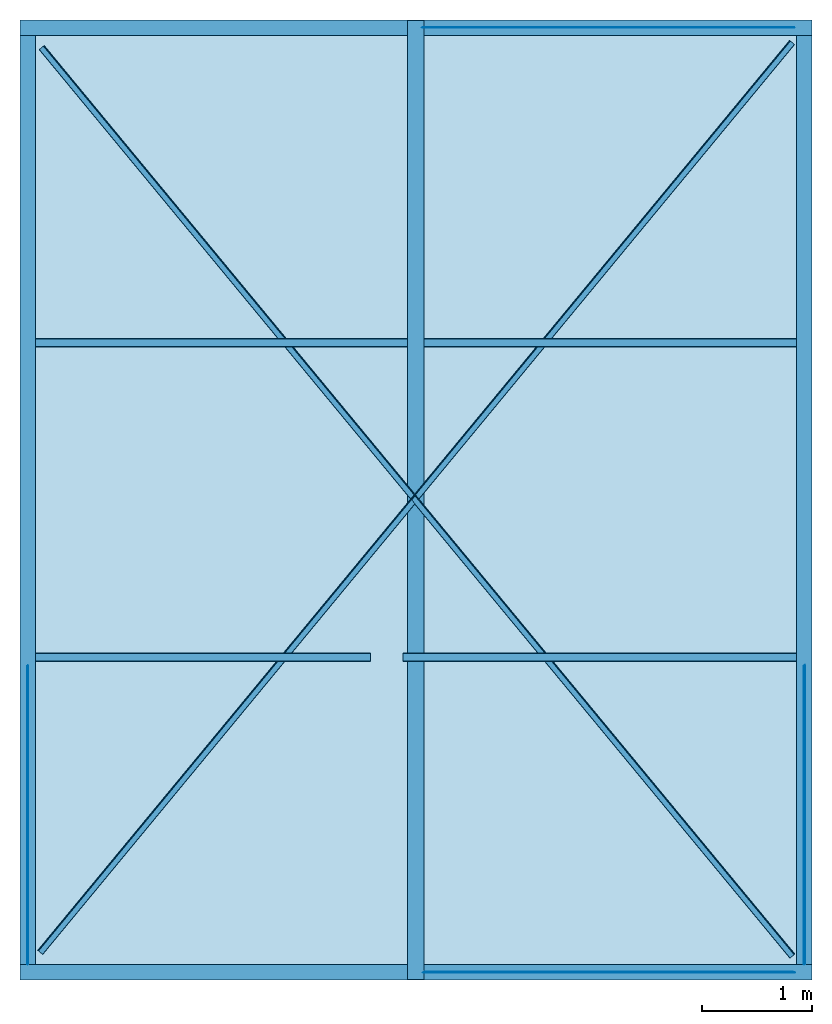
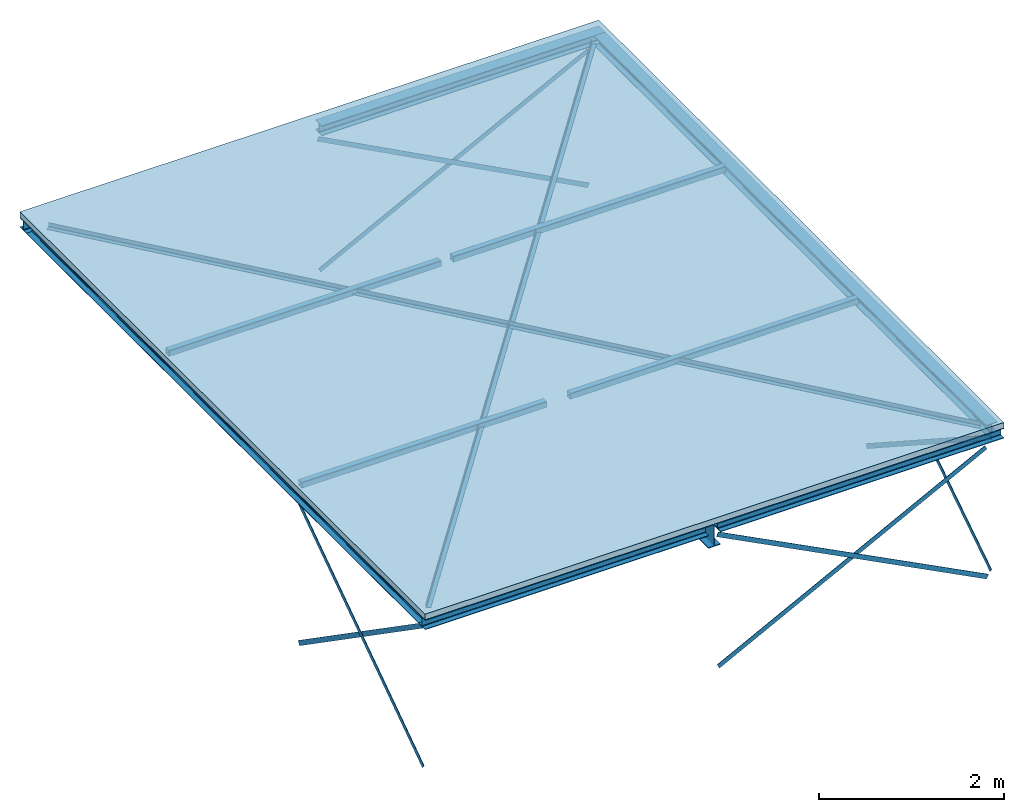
# One storey: 21 beams, 1 slab.
"""IFC2X3 building model written with IfcOpenShell, lengths in millimetres."""

from ifc_helpers import new_model, entity, si_unit, converted_unit, derived_unit, direction, frame, frame_2d, origin, origin_2d_with_axis, place, context, subcontext, project, spatial, polyline, circle_curve, parameter, trimmed, segment, composite_curve, rectangle, i_section, outline, extrude, material, layer, layer_set, layer_usage, type_object, element, save


model = new_model("IFC2X3")

# Units and contexts
model_context = context("Model", 3, precision=0.01, world=origin(), true_north=direction((6.12303176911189e-17, 1.0)))
body_context = subcontext(model_context, "Body", "Model", "MODEL_VIEW")
ifc_project = project(units=[si_unit("LENGTHUNIT", "METRE", prefix="MILLI"), si_unit("AREAUNIT", "SQUARE_METRE"), si_unit("VOLUMEUNIT", "CUBIC_METRE"), converted_unit("PLANEANGLEUNIT", "DEGREE", entity("IfcRatioMeasure", 0.0174532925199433), si_unit("PLANEANGLEUNIT", "RADIAN"), dimensions=[0, 0, 0, 0, 0, 0, 0]), si_unit("MASSUNIT", "GRAM", prefix="KILO"), derived_unit("MASSDENSITYUNIT", [(si_unit("MASSUNIT", "GRAM", prefix="KILO"), 1), (si_unit("LENGTHUNIT", "METRE"), -3)]), derived_unit("MOMENTOFINERTIAUNIT", [(si_unit("LENGTHUNIT", "METRE"), 4)]), si_unit("TIMEUNIT", "SECOND"), si_unit("FREQUENCYUNIT", "HERTZ"), si_unit("THERMODYNAMICTEMPERATUREUNIT", "DEGREE_CELSIUS"), derived_unit("THERMALTRANSMITTANCEUNIT", [(si_unit("MASSUNIT", "GRAM", prefix="KILO"), 1), (si_unit("THERMODYNAMICTEMPERATUREUNIT", "KELVIN"), -1), (si_unit("TIMEUNIT", "SECOND"), -3)]), derived_unit("VOLUMETRICFLOWRATEUNIT", [(si_unit("LENGTHUNIT", "METRE"), 3), (si_unit("TIMEUNIT", "SECOND"), -1)]), si_unit("ELECTRICCURRENTUNIT", "AMPERE"), si_unit("ELECTRICVOLTAGEUNIT", "VOLT"), si_unit("POWERUNIT", "WATT"), si_unit("FORCEUNIT", "NEWTON", prefix="KILO"), si_unit("ILLUMINANCEUNIT", "LUX"), si_unit("LUMINOUSFLUXUNIT", "LUMEN"), si_unit("LUMINOUSINTENSITYUNIT", "CANDELA"), derived_unit("USERDEFINED", [(si_unit("MASSUNIT", "GRAM", prefix="KILO"), -1), (si_unit("LENGTHUNIT", "METRE"), -2), (si_unit("TIMEUNIT", "SECOND"), 3), (si_unit("LUMINOUSFLUXUNIT", "LUMEN"), 1)]), derived_unit("LINEARVELOCITYUNIT", [(si_unit("LENGTHUNIT", "METRE"), 1), (si_unit("TIMEUNIT", "SECOND"), -1)]), si_unit("PRESSUREUNIT", "PASCAL"), derived_unit("USERDEFINED", [(si_unit("LENGTHUNIT", "METRE"), -2), (si_unit("MASSUNIT", "GRAM", prefix="KILO"), 1), (si_unit("TIMEUNIT", "SECOND"), -2)]), derived_unit("LINEARFORCEUNIT", [(si_unit("MASSUNIT", "GRAM", prefix="KILO"), 1), (si_unit("LENGTHUNIT", "METRE"), 1), (si_unit("TIMEUNIT", "SECOND"), -2), (si_unit("LENGTHUNIT", "METRE"), -1)]), derived_unit("PLANARFORCEUNIT", [(si_unit("MASSUNIT", "GRAM", prefix="KILO"), 1), (si_unit("LENGTHUNIT", "METRE"), 1), (si_unit("TIMEUNIT", "SECOND"), -2), (si_unit("LENGTHUNIT", "METRE"), -2)])], contexts=[model_context])

# Site, building, storey
site_placement = place(None, origin())
site = spatial("IfcSite", under=ifc_project, at=site_placement, Name="Default", CompositionType="ELEMENT")
building_placement = place(site_placement, origin())
building = spatial("IfcBuilding", under=site, at=building_placement, CompositionType="ELEMENT")
storey_placement = place(building_placement, frame((0.0, 0.0, 10500.0)))
storey = spatial("IfcBuildingStorey", under=building, at=storey_placement, Name="03 derde verdieping", CompositionType="ELEMENT", Elevation=10500.0000000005)

# Beams
ifc_material_1 = material(Name="00_Staal_generiek")
beam_type_1 = type_object("IfcBeamType", Name="BERSnl_28_SF_LIB_balk ipe -SH_gen_ISR:balk gen ipe300", PredefinedType="BEAM")
beam_1_placement = place(storey_placement, frame((30723.9230974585, 29962.7966282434, 30.0), z_axis=(0.0, 0.0, 1.0), x_axis=(0.0, 1.0, 0.0)))
element("IfcBeam", 1, at=beam_1_placement, inside=storey, type_object=beam_type_1, material=ifc_material_1, Name="BERSnl_28_SF_LIB_balk ipe -SH_gen_ISR:balk gen ipe300", ObjectType="BERSnl_28_SF_LIB_balk ipe -SH_gen_ISR:balk gen ipe300", context=body_context, shape_type="SweptSolid", body=[
    extrude(i_section(OverallWidth=149.999999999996, OverallDepth=299.999999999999, WebThickness=7.10000000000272, FlangeThickness=10.6999999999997, FilletRadius=15.0000000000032, at=frame_2d((1.08002495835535e-12, 0.0), x_axis=(0.0, 1.0))), frame((-6848.0, 0.0, -150.0), z_axis=(1.0, 0.0, 0.0), x_axis=(0.0, 0.0, -1.0)), (0.0, 0.0, 1.0), 8758.00000000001),
])
beam_type_2 = type_object("IfcBeamType", Name="BERSnl_28_SF_LIB_balk hea -SH_gen_ISR:balk gen hea140", PredefinedType="BEAM")
beam_2_placement = place(storey_placement, frame((34413.4270571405, 31806.2966282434, 30.0), z_axis=(0.0, 0.0, 1.0), x_axis=(-1.0, 0.0, 0.0)))
element("IfcBeam", 2, at=beam_2_placement, inside=storey, type_object=beam_type_2, material=ifc_material_1, Name="BERSnl_28_SF_LIB_balk hea -SH_gen_ISR:balk gen hea140", ObjectType="BERSnl_28_SF_LIB_balk hea -SH_gen_ISR:balk gen hea140", context=body_context, shape_type="SweptSolid", body=[
    extrude(i_section(OverallWidth=140.000000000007, OverallDepth=133.0, WebThickness=5.49999999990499, FlangeThickness=8.50000000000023, FilletRadius=12.0000000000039, at=frame_2d((2.16715534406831e-12, -2.1600499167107e-12), x_axis=(0.0, 1.0))), frame((74.0, 0.0, -66.5000000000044), z_axis=(1.0, 0.0, 0.0), x_axis=(0.0, 0.0, -1.0)), (0.0, 0.0, 1.0), 3540.5039596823),
])
beam_3_placement = place(storey_placement, frame((34269.4270571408, 30606.2966282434, 30.0), z_axis=(0.0, 0.0, 1.0), x_axis=(0.0, 1.0, 0.0)))
element("IfcBeam", 3, at=beam_3_placement, inside=storey, type_object=beam_type_2, material=ifc_material_1, Name="BERSnl_28_SF_LIB_balk hea -SH_gen_ISR:balk gen hea140", ObjectType="BERSnl_28_SF_LIB_balk hea -SH_gen_ISR:balk gen hea140", context=body_context, shape_type="SweptSolid", body=[
    extrude(i_section(OverallWidth=140.000000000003, OverallDepth=133.0, WebThickness=5.49999999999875, FlangeThickness=8.50000000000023, FilletRadius=12.0000000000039, at=frame_2d((2.1600499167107e-12, 2.1600499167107e-12), x_axis=(0.0, 1.0))), frame((-7355.0, 0.0, -66.5000000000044), z_axis=(1.0, 0.0, 0.0), x_axis=(0.0, 0.0, -1.0)), (0.0, 0.0, 1.0), 8485.00000000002),
])
beam_4_placement = place(storey_placement, frame((27754.4349765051, 31806.2966282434, 30.0)))
element("IfcBeam", 4, at=beam_4_placement, inside=storey, type_object=beam_type_2, material=ifc_material_1, Name="BERSnl_28_SF_LIB_balk hea -SH_gen_ISR:balk gen hea140", ObjectType="BERSnl_28_SF_LIB_balk hea -SH_gen_ISR:balk gen hea140", context=body_context, shape_type="SweptSolid", body=[
    extrude(i_section(OverallWidth=140.000000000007, OverallDepth=132.999999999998, WebThickness=5.49999999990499, FlangeThickness=8.50000000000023, FilletRadius=12.0000000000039, at=frame_2d((0.0, -6.49436060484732e-12), x_axis=(0.0, 1.0))), frame((-645.007919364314, 0.0, -66.5000000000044), z_axis=(1.0, 0.0, 0.0), x_axis=(0.0, 0.0, -1.0)), (0.0, 0.0, 1.0), 3539.4960403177),
])
beam_5_placement = place(storey_placement, frame((27179.4270571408, 29506.2966282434, 30.0), z_axis=(0.0, 0.0, 1.0), x_axis=(0.0, 1.0, 0.0)))
element("IfcBeam", 5, at=beam_5_placement, inside=storey, type_object=beam_type_2, material=ifc_material_1, Name="BERSnl_28_SF_LIB_balk hea -SH_gen_ISR:balk gen hea140", ObjectType="BERSnl_28_SF_LIB_balk hea -SH_gen_ISR:balk gen hea140", context=body_context, shape_type="SweptSolid", body=[
    extrude(i_section(OverallWidth=139.999999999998, OverallDepth=133.0, WebThickness=5.49999999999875, FlangeThickness=8.50000000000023, FilletRadius=12.0000000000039, at=frame_2d((2.1600499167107e-12, -2.1600499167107e-12), x_axis=(0.0, 1.0))), frame((-6255.0, 0.0, -66.5000000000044), z_axis=(1.0, 0.0, 0.0), x_axis=(0.0, 0.0, -1.0)), (0.0, 0.0, 1.0), 8485.00000000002),
])
beam_6_placement = place(storey_placement, frame((34413.4270571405, 23181.2966282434, 30.0), z_axis=(0.0, 0.0, 1.0), x_axis=(-1.0, 0.0, 0.0)))
element("IfcBeam", 6, at=beam_6_placement, inside=storey, type_object=beam_type_2, material=ifc_material_1, Name="BERSnl_28_SF_LIB_balk hea -SH_gen_ISR:balk gen hea140", ObjectType="BERSnl_28_SF_LIB_balk hea -SH_gen_ISR:balk gen hea140", context=body_context, shape_type="SweptSolid", body=[
    extrude(i_section(OverallWidth=140.000000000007, OverallDepth=133.0, WebThickness=5.49999999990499, FlangeThickness=8.50000000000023, FilletRadius=12.0000000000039, at=frame_2d((2.16715534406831e-12, -2.1600499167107e-12), x_axis=(0.0, 1.0))), frame((74.0, 0.0, -66.5000000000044), z_axis=(1.0, 0.0, 0.0), x_axis=(0.0, 0.0, -1.0)), (0.0, 0.0, 1.0), 3540.03304657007),
])
beam_7_placement = place(storey_placement, frame((27754.4349765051, 23181.2966282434, 30.0)))
element("IfcBeam", 7, at=beam_7_placement, inside=storey, type_object=beam_type_2, material=ifc_material_1, Name="BERSnl_28_SF_LIB_balk hea -SH_gen_ISR:balk gen hea140", ObjectType="BERSnl_28_SF_LIB_balk hea -SH_gen_ISR:balk gen hea140", context=body_context, shape_type="SweptSolid", body=[
    extrude(i_section(OverallWidth=140.000000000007, OverallDepth=132.999999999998, WebThickness=5.49999999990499, FlangeThickness=8.50000000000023, FilletRadius=12.0000000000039, at=frame_2d((0.0, -2.1600499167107e-12), x_axis=(0.0, 1.0))), frame((-645.007919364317, 0.0, -66.5000000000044), z_axis=(1.0, 0.0, 0.0), x_axis=(0.0, 0.0, -1.0)), (0.0, 0.0, 1.0), 3539.4960403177),
])
ifc_material_2 = material(Name="h2_staal S235")
beam_type_3 = type_object("IfcBeamType", Name="BERSnl_28_SF_LIB_balk koker vierkant_gen_ISR:balk gen k80x80x4", PredefinedType="BEAM")
beam_8_placement = place(storey_placement, frame((29871.7631406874, 28929.2966282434, 30.0), z_axis=(0.0, 0.0, 1.0), x_axis=(-1.0, 0.0, 0.0)))
element("IfcBeam", 8, at=beam_8_placement, inside=storey, type_object=beam_type_3, material=ifc_material_2, Name="BERSnl_28_SF_LIB_balk koker vierkant_gen_ISR:balk gen k80x80x4", ObjectType="BERSnl_28_SF_LIB_balk koker vierkant_gen_ISR:balk gen k80x80x4", context=body_context, shape_type="SweptSolid", body=[
    extrude(outline(composite_curve([segment(trimmed(circle_curve(frame_2d((-32.0, -32.0), x_axis=(1.0, 0.0)), 8.0), [parameter(180.0)], [parameter(270.0)], True, "PARAMETER"), True, "CONTINUOUS"), segment(polyline([(-32.0, -40.0), (32.0, -40.0)]), True, "CONTINUOUS"), segment(trimmed(circle_curve(frame_2d((32.0, -32.0), x_axis=(1.0, 0.0)), 8.0), [parameter(270.0)], [parameter(5.08888749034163e-14)], True, "PARAMETER"), True, "CONTINUOUS"), segment(polyline([(40.0, -32.0), (40.0, 32.0)]), True, "CONTINUOUS"), segment(trimmed(circle_curve(frame_2d((32.0, 32.0), x_axis=(1.0, 0.0)), 8.0), [parameter(360.0)], [parameter(89.9999999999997)], True, "PARAMETER"), True, "CONTINUOUS"), segment(polyline([(32.0, 40.0), (-32.0, 40.0)]), True, "CONTINUOUS"), segment(trimmed(circle_curve(frame_2d((-32.0, 32.0), x_axis=(1.0, 0.0)), 8.0), [parameter(90.0000000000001)], [parameter(180.0)], True, "PARAMETER"), True, "CONTINUOUS"), segment(polyline([(-40.0, 32.0), (-40.0, -32.0)]), True, "CONTINUOUS")], self_intersect=False), holes=[composite_curve([segment(polyline([(32.0, -36.0), (-32.0, -36.0)]), True, "CONTINUOUS"), segment(trimmed(circle_curve(frame_2d((-32.0, -32.0), x_axis=(1.0, 0.0)), 4.0), [parameter(180.0)], [parameter(270.0)], True, "PARAMETER"), False, "CONTINUOUS"), segment(polyline([(-36.0, -32.0), (-36.0, 32.0)]), True, "CONTINUOUS"), segment(trimmed(circle_curve(frame_2d((-32.0, 32.0), x_axis=(1.0, 0.0)), 4.0), [parameter(90.0000000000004)], [parameter(180.0)], True, "PARAMETER"), False, "CONTINUOUS"), segment(polyline([(-32.0, 36.0), (32.0, 36.0)]), True, "CONTINUOUS"), segment(trimmed(circle_curve(frame_2d((32.0, 32.0), x_axis=(1.0, 0.0)), 4.0), [parameter(0.0)], [parameter(90.0000000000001)], True, "PARAMETER"), False, "CONTINUOUS"), segment(polyline([(36.0, 32.0), (36.0, -32.0)]), True, "CONTINUOUS"), segment(trimmed(circle_curve(frame_2d((32.0, -32.0), x_axis=(1.0, 0.0)), 4.0), [parameter(270.0)], [parameter(3.05333249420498e-13)], True, "PARAMETER"), False, "CONTINUOUS")], self_intersect=False)]), frame((-777.143894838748, 0.0, -40.0), z_axis=(1.0, 0.0, 0.0), x_axis=(0.0, -1.0, 0.0)), (0.0, 0.0, 1.0), 3399.46391645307),
])
beam_9_placement = place(storey_placement, frame((32323.9310168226, 28929.2966282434, 30.0)))
element("IfcBeam", 9, at=beam_9_placement, inside=storey, type_object=beam_type_3, material=ifc_material_2, Name="BERSnl_28_SF_LIB_balk koker vierkant_gen_ISR:balk gen k80x80x4", ObjectType="BERSnl_28_SF_LIB_balk koker vierkant_gen_ISR:balk gen k80x80x4", context=body_context, shape_type="SweptSolid", body=[
    extrude(outline(composite_curve([segment(polyline([(-32.0, -40.0), (32.0, -40.0)]), True, "CONTINUOUS"), segment(trimmed(circle_curve(frame_2d((32.0, -32.0), x_axis=(0.0, 1.0)), 8.0), [parameter(180.0)], [parameter(270.0)], True, "PARAMETER"), True, "CONTINUOUS"), segment(polyline([(40.0, -32.0), (40.0, 32.0)]), True, "CONTINUOUS"), segment(trimmed(circle_curve(frame_2d((32.0, 32.0), x_axis=(0.0, 1.0)), 8.0), [parameter(270.0)], [parameter(3.56222124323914e-13)], True, "PARAMETER"), True, "CONTINUOUS"), segment(polyline([(32.0, 40.0), (-32.0, 40.0)]), True, "CONTINUOUS"), segment(trimmed(circle_curve(frame_2d((-32.0, 32.0), x_axis=(0.0, 1.0)), 8.0), [parameter(360.0)], [parameter(90.0)], True, "PARAMETER"), True, "CONTINUOUS"), segment(polyline([(-40.0, 32.0), (-40.0, -32.0)]), True, "CONTINUOUS"), segment(trimmed(circle_curve(frame_2d((-32.0, -32.0), x_axis=(0.0, 1.0)), 8.0), [parameter(90.0000000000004)], [parameter(180.0)], True, "PARAMETER"), True, "CONTINUOUS")], self_intersect=False), holes=[composite_curve([segment(trimmed(circle_curve(frame_2d((-32.0, 32.0), x_axis=(0.0, 1.0)), 4.0), [parameter(360.0)], [parameter(89.9999999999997)], True, "PARAMETER"), False, "CONTINUOUS"), segment(polyline([(-32.0, 36.0), (32.0, 36.0)]), True, "CONTINUOUS"), segment(trimmed(circle_curve(frame_2d((32.0, 32.0), x_axis=(0.0, 1.0)), 4.0), [parameter(270.0)], [parameter(0.0)], True, "PARAMETER"), False, "CONTINUOUS"), segment(polyline([(36.0, 32.0), (36.0, -32.0)]), True, "CONTINUOUS"), segment(trimmed(circle_curve(frame_2d((32.0, -32.0), x_axis=(0.0, 1.0)), 4.0), [parameter(180.0)], [parameter(270.0)], True, "PARAMETER"), False, "CONTINUOUS"), segment(polyline([(32.0, -36.0), (-32.0, -36.0)]), True, "CONTINUOUS"), segment(trimmed(circle_curve(frame_2d((-32.0, -32.0), x_axis=(0.0, 1.0)), 4.0), [parameter(90.0000000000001)], [parameter(180.0)], True, "PARAMETER"), False, "CONTINUOUS"), segment(polyline([(-36.0, -32.0), (-36.0, 32.0)]), True, "CONTINUOUS")], self_intersect=False)]), frame((-1525.00791936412, 0.0, -40.0), z_axis=(1.0, 0.0, 0.0), x_axis=(0.0, 0.0, -1.0)), (0.0, 0.0, 1.0), 3400.50395968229),
])
beam_10_placement = place(storey_placement, frame((29843.9310168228, 26058.2966282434, 30.0), z_axis=(0.0, 0.0, 1.0), x_axis=(-1.0, 0.0, 0.0)))
element("IfcBeam", 10, at=beam_10_placement, inside=storey, type_object=beam_type_3, material=ifc_material_2, Name="BERSnl_28_SF_LIB_balk koker vierkant_gen_ISR:balk gen k80x80x4", ObjectType="BERSnl_28_SF_LIB_balk koker vierkant_gen_ISR:balk gen k80x80x4", context=body_context, shape_type="SweptSolid", body=[
    extrude(outline(composite_curve([segment(trimmed(circle_curve(frame_2d((-32.0, -32.0), x_axis=(1.0, 0.0)), 8.0), [parameter(180.0)], [parameter(270.0)], True, "PARAMETER"), True, "CONTINUOUS"), segment(polyline([(-32.0, -40.0), (32.0, -40.0)]), True, "CONTINUOUS"), segment(trimmed(circle_curve(frame_2d((32.0, -32.0), x_axis=(1.0, 0.0)), 8.0), [parameter(270.0)], [parameter(5.08888749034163e-14)], True, "PARAMETER"), True, "CONTINUOUS"), segment(polyline([(40.0, -32.0), (40.0, 32.0)]), True, "CONTINUOUS"), segment(trimmed(circle_curve(frame_2d((32.0, 32.0), x_axis=(1.0, 0.0)), 8.0), [parameter(360.0)], [parameter(89.9999999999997)], True, "PARAMETER"), True, "CONTINUOUS"), segment(polyline([(32.0, 40.0), (-32.0, 40.0)]), True, "CONTINUOUS"), segment(trimmed(circle_curve(frame_2d((-32.0, 32.0), x_axis=(1.0, 0.0)), 8.0), [parameter(90.0000000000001)], [parameter(180.0)], True, "PARAMETER"), True, "CONTINUOUS"), segment(polyline([(-40.0, 32.0), (-40.0, -32.0)]), True, "CONTINUOUS")], self_intersect=False), holes=[composite_curve([segment(polyline([(32.0, -36.0), (-32.0, -36.0)]), True, "CONTINUOUS"), segment(trimmed(circle_curve(frame_2d((-32.0, -32.0), x_axis=(1.0, 0.0)), 4.0), [parameter(180.0)], [parameter(270.0)], True, "PARAMETER"), False, "CONTINUOUS"), segment(polyline([(-36.0, -32.0), (-36.0, 32.0)]), True, "CONTINUOUS"), segment(trimmed(circle_curve(frame_2d((-32.0, 32.0), x_axis=(1.0, 0.0)), 4.0), [parameter(90.0000000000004)], [parameter(180.0)], True, "PARAMETER"), False, "CONTINUOUS"), segment(polyline([(-32.0, 36.0), (32.0, 36.0)]), True, "CONTINUOUS"), segment(trimmed(circle_curve(frame_2d((32.0, 32.0), x_axis=(1.0, 0.0)), 4.0), [parameter(0.0)], [parameter(90.0000000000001)], True, "PARAMETER"), False, "CONTINUOUS"), segment(polyline([(36.0, 32.0), (36.0, -32.0)]), True, "CONTINUOUS"), segment(trimmed(circle_curve(frame_2d((32.0, -32.0), x_axis=(1.0, 0.0)), 4.0), [parameter(270.0)], [parameter(3.05333249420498e-13)], True, "PARAMETER"), False, "CONTINUOUS")], self_intersect=False)]), frame((-465.0, 0.0, -40.0), z_axis=(1.0, 0.0, 0.0), x_axis=(0.0, -1.0, 0.0)), (0.0, 0.0, 1.0), 3059.50395968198),
])
beam_11_placement = place(storey_placement, frame((32323.9310168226, 26058.2966282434, 30.0)))
element("IfcBeam", 11, at=beam_11_placement, inside=storey, type_object=beam_type_3, material=ifc_material_2, Name="BERSnl_28_SF_LIB_balk koker vierkant_gen_ISR:balk gen k80x80x4", ObjectType="BERSnl_28_SF_LIB_balk koker vierkant_gen_ISR:balk gen k80x80x4", context=body_context, shape_type="SweptSolid", body=[
    extrude(outline(composite_curve([segment(polyline([(-32.0, -40.0), (32.0, -40.0)]), True, "CONTINUOUS"), segment(trimmed(circle_curve(frame_2d((32.0, -32.0), x_axis=(0.0, 1.0)), 8.0), [parameter(180.0)], [parameter(270.0)], True, "PARAMETER"), True, "CONTINUOUS"), segment(polyline([(40.0, -32.0), (40.0, 32.0)]), True, "CONTINUOUS"), segment(trimmed(circle_curve(frame_2d((32.0, 32.0), x_axis=(0.0, 1.0)), 8.0), [parameter(270.0)], [parameter(3.56222124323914e-13)], True, "PARAMETER"), True, "CONTINUOUS"), segment(polyline([(32.0, 40.0), (-32.0, 40.0)]), True, "CONTINUOUS"), segment(trimmed(circle_curve(frame_2d((-32.0, 32.0), x_axis=(0.0, 1.0)), 8.0), [parameter(360.0)], [parameter(90.0)], True, "PARAMETER"), True, "CONTINUOUS"), segment(polyline([(-40.0, 32.0), (-40.0, -32.0)]), True, "CONTINUOUS"), segment(trimmed(circle_curve(frame_2d((-32.0, -32.0), x_axis=(0.0, 1.0)), 8.0), [parameter(90.0000000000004)], [parameter(180.0)], True, "PARAMETER"), True, "CONTINUOUS")], self_intersect=False), holes=[composite_curve([segment(trimmed(circle_curve(frame_2d((-32.0, 32.0), x_axis=(0.0, 1.0)), 4.0), [parameter(360.0)], [parameter(89.9999999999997)], True, "PARAMETER"), False, "CONTINUOUS"), segment(polyline([(-32.0, 36.0), (32.0, 36.0)]), True, "CONTINUOUS"), segment(trimmed(circle_curve(frame_2d((32.0, 32.0), x_axis=(0.0, 1.0)), 4.0), [parameter(270.0)], [parameter(0.0)], True, "PARAMETER"), False, "CONTINUOUS"), segment(polyline([(36.0, 32.0), (36.0, -32.0)]), True, "CONTINUOUS"), segment(trimmed(circle_curve(frame_2d((32.0, -32.0), x_axis=(0.0, 1.0)), 4.0), [parameter(180.0)], [parameter(270.0)], True, "PARAMETER"), False, "CONTINUOUS"), segment(polyline([(32.0, -36.0), (-32.0, -36.0)]), True, "CONTINUOUS"), segment(trimmed(circle_curve(frame_2d((-32.0, -32.0), x_axis=(0.0, 1.0)), 4.0), [parameter(90.0000000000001)], [parameter(180.0)], True, "PARAMETER"), False, "CONTINUOUS"), segment(polyline([(-36.0, -32.0), (-36.0, 32.0)]), True, "CONTINUOUS")], self_intersect=False)]), frame((-1718.95413431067, 0.0, -40.0), z_axis=(1.0, 0.0, 0.0), x_axis=(0.0, 0.0, -1.0)), (0.0, 0.0, 1.0), 3594.45017462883),
])
beam_type_4 = type_object("IfcBeamType", Name="BERSnl_28_SF_LIB_balk strip_gen_ISR:balk strip  gen 60x6", PredefinedType="USERDEFINED")
beam_12_placement = place(storey_placement, frame((30840.5063089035, 31809.2966282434, -1876.96260304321), z_axis=(-0.458312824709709, 0.0, 0.888790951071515), x_axis=(0.888790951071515, 0.0, 0.458312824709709)))
element("IfcBeam", 12, at=beam_12_placement, inside=storey, type_object=beam_type_4, material=ifc_material_1, Name="BERSnl_28_SF_LIB_balk strip_gen_ISR:balk strip  gen 60x6", ObjectType="BERSnl_28_SF_LIB_balk strip_gen_ISR:balk strip  gen 60x6", context=body_context, shape_type="SweptSolid", body=[
    extrude(rectangle(XDim=59.9999999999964, YDim=5.99999999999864, at=frame_2d((-1.92379445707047e-12, 0.0), x_axis=(1.0, 0.0))), frame((-46.2564321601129, 0.0, -30.0), z_axis=(1.0, 0.0, 0.0), x_axis=(0.0, 0.0, -1.0)), (0.0, 0.0, 1.0), 3777.3905662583),
])
beam_13_placement = place(storey_placement, frame((34047.8517650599, 31806.2966282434, -1876.96260304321), z_axis=(0.469471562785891, 0.0, 0.882947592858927), x_axis=(-0.882947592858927, 0.0, 0.469471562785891)))
element("IfcBeam", 13, at=beam_13_placement, inside=storey, type_object=beam_type_4, material=ifc_material_1, Name="BERSnl_28_SF_LIB_balk strip_gen_ISR:balk strip  gen 60x6", ObjectType="BERSnl_28_SF_LIB_balk strip_gen_ISR:balk strip  gen 60x6", context=body_context, shape_type="SweptSolid", body=[
    extrude(rectangle(XDim=60.0000000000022, YDim=5.99999999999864, at=frame_2d((4.79616346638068e-13, 0.0), x_axis=(1.0, 0.0))), frame((-153.420395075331, 0.0, -30.0), z_axis=(1.0, 0.0, 0.0), x_axis=(0.0, 0.0, -1.0)), (0.0, 0.0, 1.0), 3826.86524620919),
])
beam_14_placement = place(storey_placement, frame((30840.5063089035, 23184.2966282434, -1876.96260304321), z_axis=(-0.458312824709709, 0.0, 0.888790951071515), x_axis=(0.888790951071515, 0.0, 0.458312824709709)))
element("IfcBeam", 14, at=beam_14_placement, inside=storey, type_object=beam_type_4, material=ifc_material_1, Name="BERSnl_28_SF_LIB_balk strip_gen_ISR:balk strip  gen 60x6", ObjectType="BERSnl_28_SF_LIB_balk strip_gen_ISR:balk strip  gen 60x6", context=body_context, shape_type="SweptSolid", body=[
    extrude(rectangle(XDim=59.9999999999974, YDim=5.99999999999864, at=frame_2d((-4.81392703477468e-13, 0.0), x_axis=(1.0, 0.0))), frame((-46.2564321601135, 0.0, -30.0), z_axis=(1.0, 0.0, 0.0), x_axis=(0.0, 0.0, -1.0)), (0.0, 0.0, 1.0), 3760.17356594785),
])
beam_15_placement = place(storey_placement, frame((34167.8517650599, 23181.2966282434, -1876.96260304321), z_axis=(0.458312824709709, 0.0, 0.888790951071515), x_axis=(-0.888790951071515, 0.0, 0.458312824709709)))
element("IfcBeam", 15, at=beam_15_placement, inside=storey, type_object=beam_type_4, material=ifc_material_1, Name="BERSnl_28_SF_LIB_balk strip_gen_ISR:balk strip  gen 60x6", ObjectType="BERSnl_28_SF_LIB_balk strip_gen_ISR:balk strip  gen 60x6", context=body_context, shape_type="SweptSolid", body=[
    extrude(rectangle(XDim=60.0000000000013, YDim=5.99999999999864, at=frame_2d((-1.47437617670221e-12, 0.0), x_axis=(1.0, 0.0))), frame((-22.8261178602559, 0.0, -30.0), z_axis=(1.0, 0.0, 0.0), x_axis=(0.0, 0.0, -1.0)), (0.0, 0.0, 1.0), 3796.27096899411),
])
beam_16_placement = place(storey_placement, frame((34266.4270571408, 23281.3181877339, -1874.33437304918), z_axis=(0.0, -0.544639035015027, 0.838670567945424), x_axis=(0.0, 0.838670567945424, 0.544639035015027)))
element("IfcBeam", 16, at=beam_16_placement, inside=storey, type_object=beam_type_4, material=ifc_material_1, Name="BERSnl_28_SF_LIB_balk strip_gen_ISR:balk strip  gen 60x6", ObjectType="BERSnl_28_SF_LIB_balk strip_gen_ISR:balk strip  gen 60x6", context=body_context, shape_type="SweptSolid", body=[
    extrude(rectangle(XDim=59.9999999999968, YDim=5.99999999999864, at=frame_2d((4.56523707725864e-13, 0.0), x_axis=(1.0, 0.0))), frame((-36.6851024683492, 0.0, -30.0), z_axis=(1.0, 0.0, 0.0), x_axis=(0.0, 0.0, -1.0)), (0.0, 0.0, 1.0), 3219.88097225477),
])
beam_17_placement = place(storey_placement, frame((34275.4270571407, 25958.2750687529, -1874.33437304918), z_axis=(0.0, 0.544639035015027, 0.838670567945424), x_axis=(0.0, -0.838670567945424, 0.544639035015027)))
element("IfcBeam", 17, at=beam_17_placement, inside=storey, type_object=beam_type_4, material=ifc_material_1, Name="BERSnl_28_SF_LIB_balk strip_gen_ISR:balk strip  gen 60x6", ObjectType="BERSnl_28_SF_LIB_balk strip_gen_ISR:balk strip  gen 60x6", context=body_context, shape_type="SweptSolid", body=[
    extrude(rectangle(XDim=59.9999999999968, YDim=5.99999999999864, at=frame_2d((4.56523707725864e-13, 2.16582307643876e-12), x_axis=(1.0, 0.0))), frame((-36.6851024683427, 0.0, -30.0), z_axis=(1.0, 0.0, 0.0), x_axis=(0.0, 0.0, -1.0)), (0.0, 0.0, 1.0), 3219.88097225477),
])
beam_18_placement = place(storey_placement, frame((27176.4270571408, 23279.8638574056, -1980.05761587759), z_axis=(0.0, -0.567323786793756, 0.823494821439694), x_axis=(0.0, 0.823494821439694, 0.567323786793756)))
element("IfcBeam", 18, at=beam_18_placement, inside=storey, type_object=beam_type_4, material=ifc_material_1, Name="BERSnl_28_SF_LIB_balk strip_gen_ISR:balk strip  gen 60x6", ObjectType="BERSnl_28_SF_LIB_balk strip_gen_ISR:balk strip  gen 60x6", context=body_context, shape_type="SweptSolid", body=[
    extrude(rectangle(XDim=60.0000000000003, YDim=5.99999999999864, at=frame_2d((-4.47641923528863e-13, 0.0), x_axis=(1.0, 0.0))), frame((-36.6851024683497, 0.0, -30.0), z_axis=(1.0, 0.0, 0.0), x_axis=(0.0, 0.0, -1.0)), (0.0, 0.0, 1.0), 3279.88097225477),
])
beam_19_placement = place(storey_placement, frame((27182.4270571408, 25954.0313484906, -1988.30109459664), z_axis=(0.0, 0.569883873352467, 0.821725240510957), x_axis=(0.0, -0.821725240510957, 0.569883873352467)))
element("IfcBeam", 19, at=beam_19_placement, inside=storey, type_object=beam_type_4, material=ifc_material_1, Name="BERSnl_28_SF_LIB_balk strip_gen_ISR:balk strip  gen 60x6", ObjectType="BERSnl_28_SF_LIB_balk strip_gen_ISR:balk strip  gen 60x6", context=body_context, shape_type="SweptSolid", body=[
    extrude(rectangle(XDim=60.0000000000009, YDim=5.99999999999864, at=frame_2d((-4.44089209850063e-13, 0.0), x_axis=(1.0, 0.0))), frame((-36.6851024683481, 0.0, -30.0), z_axis=(1.0, 0.0, 0.0), x_axis=(0.0, 0.0, -1.0)), (0.0, 0.0, 1.0), 3279.88097225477),
])
beam_type_5 = type_object("IfcBeamType", Name="BERSnl_28_SF_LIB_balk hoeklijn_gen_ISR:balk gen l60x6", PredefinedType="BEAM")
beam_20_placement = place(storey_placement, frame((27317.7854104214, 31632.9890705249, 30.0), z_axis=(0.0, 0.0, 1.0), x_axis=(0.636964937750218, -0.770892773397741, 0.0)))
element("IfcBeam", 20, at=beam_20_placement, inside=storey, type_object=beam_type_5, material=ifc_material_1, Name="BERSnl_28_SF_LIB_balk hoeklijn_gen_ISR:balk gen l60x6", ObjectType="BERSnl_28_SF_LIB_balk hoeklijn_gen_ISR:balk gen l60x6", context=body_context, shape_type="SweptSolid", body=[
    extrude(outline(composite_curve([segment(polyline([(20.6666666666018, -37.333333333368), (22.6666666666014, -37.333333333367)]), True, "CONTINUOUS"), segment(polyline([(22.6666666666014, -37.3333333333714), (22.6666666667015, 22.6666666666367)]), True, "CONTINUOUS"), segment(polyline([(22.6666666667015, 22.6666666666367), (-37.3333333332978, 22.6666666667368)]), True, "CONTINUOUS"), segment(polyline([(-37.3333333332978, 22.6666666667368), (-37.3333333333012, 20.666666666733)]), True, "CONTINUOUS"), segment(trimmed(circle_curve(frame_2d((-33.3333333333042, 20.666666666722), x_axis=(-1.0, 0.0)), 3.99999999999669), [parameter(0.0)], [parameter(90.0000000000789)], True, "PARAMETER"), True, "CONTINUOUS"), segment(polyline([(-33.3333333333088, 16.6666666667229), (8.66666666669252, 16.6666666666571)]), True, "CONTINUOUS"), segment(trimmed(circle_curve(frame_2d((8.66666666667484, 8.66666666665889), x_axis=(0.0, 1.0)), 8.00000000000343), [parameter(270.000000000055)], [parameter(0.0)], True, "PARAMETER"), False, "CONTINUOUS"), segment(polyline([(16.6666666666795, 8.66666666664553), (16.6666666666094, -33.3333333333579)]), True, "CONTINUOUS"), segment(trimmed(circle_curve(frame_2d((20.6666666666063, -33.3333333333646), x_axis=(-1.0, 0.0)), 3.9999999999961), [parameter(0.0)], [parameter(90.0000000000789)], True, "PARAMETER"), True, "CONTINUOUS")], self_intersect=False)), frame((0.0, -5.76666666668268, -37.3333333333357), z_axis=(1.0, 0.0, 0.0), x_axis=(0.0, 0.0, -1.0)), (0.0, 0.0, 1.0), 10760.0),
])
beam_21_placement = place(storey_placement, frame((34148.2945194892, 31679.2426369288, 30.0), z_axis=(0.0, 0.0, 1.0), x_axis=(-0.636964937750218, -0.770892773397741, 0.0)))
element("IfcBeam", 21, at=beam_21_placement, inside=storey, type_object=beam_type_5, material=ifc_material_1, Name="BERSnl_28_SF_LIB_balk hoeklijn_gen_ISR:balk gen l60x6", ObjectType="BERSnl_28_SF_LIB_balk hoeklijn_gen_ISR:balk gen l60x6", context=body_context, shape_type="SweptSolid", body=[
    extrude(outline(composite_curve([segment(polyline([(-37.3333333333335, -22.6666666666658), (22.6666666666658, -22.6666666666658)]), True, "CONTINUOUS"), segment(polyline([(22.6666666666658, -22.6666666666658), (22.6666666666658, 37.3333333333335)]), True, "CONTINUOUS"), segment(polyline([(22.6666666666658, 37.3333333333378), (20.6666666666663, 37.3333333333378)]), True, "CONTINUOUS"), segment(trimmed(circle_curve(frame_2d((20.6666666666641, 33.3333333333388), x_axis=(0.0, 1.0)), 3.99999999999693), [parameter(0.0)], [parameter(90.0000000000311)], True, "PARAMETER"), True, "CONTINUOUS"), segment(polyline([(16.6666666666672, 33.3333333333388), (16.6666666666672, -8.6666666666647)]), True, "CONTINUOUS"), segment(trimmed(circle_curve(frame_2d((8.66666666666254, -8.6666666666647), x_axis=(1.0, 0.0)), 8.0000000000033), [parameter(270.000000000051)], [parameter(0.0)], True, "PARAMETER"), False, "CONTINUOUS"), segment(polyline([(8.66666666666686, -16.6666666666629), (-33.3333333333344, -16.6666666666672)]), True, "CONTINUOUS"), segment(trimmed(circle_curve(frame_2d((-33.3333333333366, -20.666666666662), x_axis=(0.0, 1.0)), 3.99999999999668), [parameter(0.0)], [parameter(90.0000000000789)], True, "PARAMETER"), True, "CONTINUOUS"), segment(polyline([(-37.3333333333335, -20.666666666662), (-37.3333333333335, -22.6666666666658)]), True, "CONTINUOUS")], self_intersect=False)), frame((0.0, 5.76666666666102, -37.3333333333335), z_axis=(1.0, 0.0, 0.0), x_axis=(0.0, 0.0, -1.0)), (0.0, 0.0, 1.0), 10776.3613530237),
])

# Slab
ifc_material_3 = material(Name="h2_staal")
ifc_layer = layer(ifc_material_3, 75.0)
ifc_layer_set = layer_set([ifc_layer], Name="Floor:BERSnl_27_FL_staal 75_gen_ISR")
ifc_layer_usage = layer_usage(ifc_layer_set, "AXIS3", "POSITIVE", 0.0)
slab_type = type_object("IfcSlabType", Name="Floor:BERSnl_27_FL_staal 75_gen_ISR", PredefinedType="ROOF", material=ifc_layer_set)
slab_placement = place(storey_placement, origin())
element("IfcSlab", 22, at=slab_placement, inside=storey, type_object=slab_type, material=ifc_layer_usage, Name="Floor:BERSnl_27_FL_staal 75_gen_ISR", ObjectType="Floor:BERSnl_27_FL_staal 75_gen_ISR", PredefinedType="ROOF", context=body_context, shape_type="SweptSolid", body=[
    extrude(rectangle(XDim=8765.0, YDim=7229.99999999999, at=origin_2d_with_axis()), frame((30724.4270571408, 27493.7966282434, 105.0), z_axis=(0.0, 0.0, -1.0), x_axis=(0.0, 1.0, 0.0)), (0.0, 0.0, 1.0), 75.0000000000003),
])

save(model, "model.ifc")
